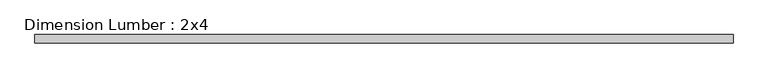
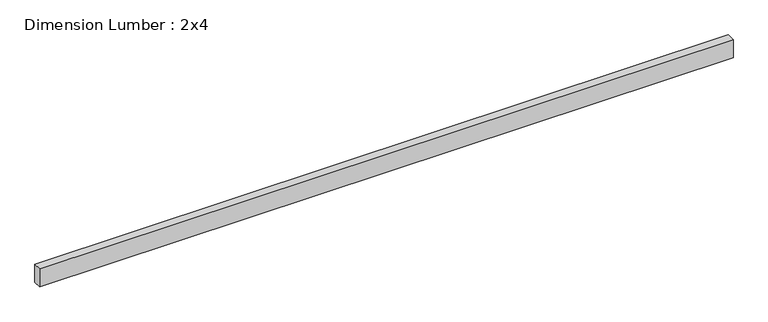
"""IFC4 building model written with IfcOpenShell, lengths in millimetres: beam geometry, Dimension Lumber : 2x4."""

from ifc_helpers import new_model, si_unit, frame, origin, place, context, project, spatial, polyline, outline, extrude, source, transform, mapped, element, save


def dimension_lumber_2x4_357f3539(model_context):
    return source(origin(), model_context, "Body", "SweptSolid", [
        extrude(outline(polyline([(1590.6749994, 19.05), (1590.6749994, -19.05), (-1609.725, -19.05), (-1609.725, 19.05), (1590.6749994, 19.05)])), frame((0.0, 0.0, -44.45), z_axis=(0.0, 0.0, 1.0), x_axis=(1.0, 0.0, 0.0)), (0.0, 0.0, 1.0), 88.9),
    ])


if __name__ == "__main__":
    model = new_model("IFC4")
    model_context = context("Model", 3, world=origin())
    ifc_project = project(units=[si_unit("LENGTHUNIT", "METRE", prefix="MILLI")], contexts=[model_context])
    site = spatial("IfcSite", under=ifc_project)
    building = spatial("IfcBuilding", under=site)
    placement = place(None, origin())
    dimension_lumber_2x4_shape = dimension_lumber_2x4_357f3539(model_context)
    element("IfcBeam", 1, ObjectType="Dimension Lumber : 2x4", at=placement, inside=building, context=model_context, shape_type="MappedRepresentation", body=[
        mapped(dimension_lumber_2x4_shape, transform((0.0, 0.0, 0.0), x_axis=(1.0, 0.0, 0.0), y_axis=(0.0, 1.0, 0.0), z_axis=(0.0, 0.0, 1.0))),
    ])
    save(model, "model.ifc")
